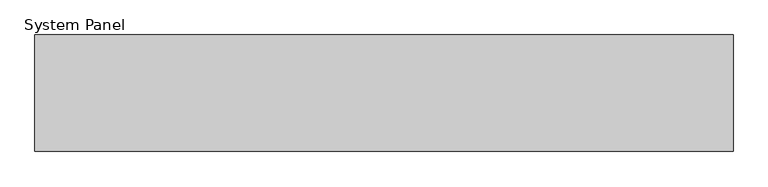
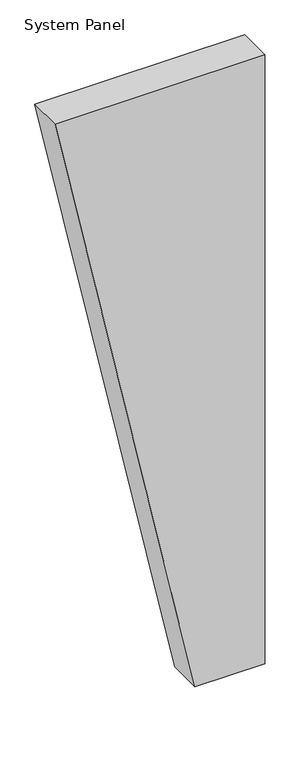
"""IFC4 building model written with IfcOpenShell, lengths in millimetres: plate geometry, System Panel : Equitilt 200mm Vertical - Plain RHEA - EPS-FR."""

from ifc_helpers import new_model, si_unit, frame, origin, place, context, project, spatial, polyline, outline, extrude, source, transform, mapped, element, save


def system_panel_cee82647(model_context):
    return source(origin(), model_context, "Body", "SweptSolid", [
        extrude(outline(polyline([(0.0, 200.0), (0.0, 600.0), (3679.9704237, 600.0), (3679.9704237, -600.0), (0.0, 200.0)])), frame((0.0, -200.0, 0.0), z_axis=(0.0, 1.0, 0.0), x_axis=(0.0, 0.0, 1.0)), (0.0, 0.0, 1.0), 200.0),
    ])


if __name__ == "__main__":
    model = new_model("IFC4")
    model_context = context("Model", 3, world=origin())
    ifc_project = project(units=[si_unit("LENGTHUNIT", "METRE", prefix="MILLI")], contexts=[model_context])
    site = spatial("IfcSite", under=ifc_project)
    building = spatial("IfcBuilding", under=site)
    placement = place(None, origin())
    system_panel_shape = system_panel_cee82647(model_context)
    element("IfcPlate", 1, ObjectType="System Panel : Equitilt 200mm Vertical - Plain RHEA - EPS-FR", at=placement, inside=building, context=model_context, shape_type="MappedRepresentation", body=[
        mapped(system_panel_shape, transform((0.0, 0.0, 0.0), x_axis=(1.0, 0.0, 0.0), y_axis=(0.0, 1.0, 0.0), z_axis=(0.0, 0.0, 1.0))),
    ])
    save(model, "model.ifc")
